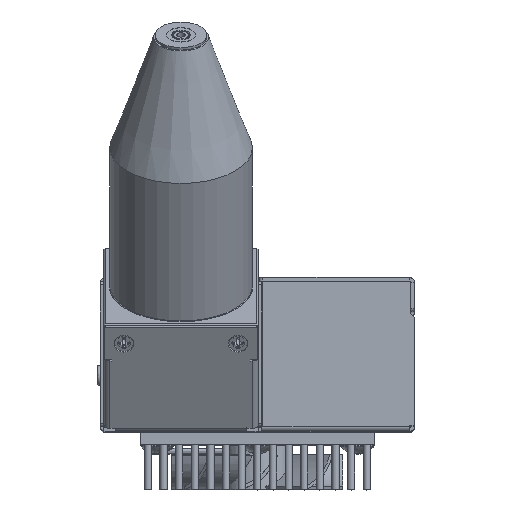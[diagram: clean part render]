
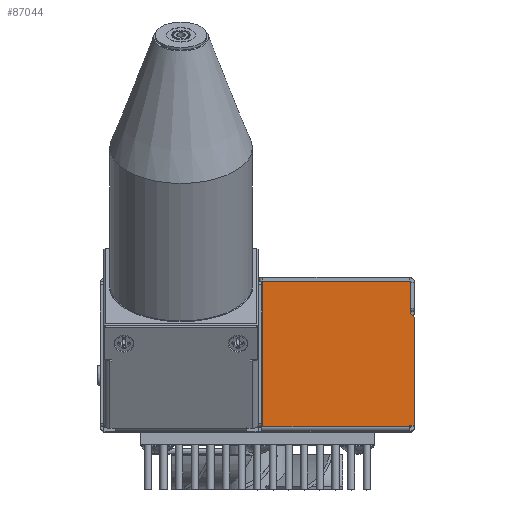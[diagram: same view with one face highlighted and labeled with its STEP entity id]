
A CAD part, top view. The second image highlights one B-rep face of the part: STEP entity #87044.
In plain terms, the highlighted planar face has unit normal (0, 0, 1).
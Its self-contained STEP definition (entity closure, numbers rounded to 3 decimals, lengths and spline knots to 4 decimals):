
#876 = DIRECTION ( 'NONE',  ( -1., 0., 0. ) ) ;
#2855 = CARTESIAN_POINT ( 'NONE',  ( 0.7165, -0.6335, 0.0512 ) ) ;
#2986 = ORIENTED_EDGE ( 'NONE', *, *, #32356, .F. ) ;
#6387 = CARTESIAN_POINT ( 'NONE',  ( 2.002, -0.6181, 0.0512 ) ) ;
#6999 = LINE ( 'NONE', #70914, #58240 ) ;
#7697 = VERTEX_POINT ( 'NONE', #9991 ) ;
#8213 = AXIS2_PLACEMENT_3D ( 'NONE', #18277, #43499, #76243 ) ;
#9991 = CARTESIAN_POINT ( 'NONE',  ( 2.0075, 0.3696, 0.0512 ) ) ;
#13378 = ORIENTED_EDGE ( 'NONE', *, *, #48093, .T. ) ;
#15495 = DIRECTION ( 'NONE',  ( -1., 0., 0. ) ) ;
#18277 = CARTESIAN_POINT ( 'NONE',  ( 2.0175, 0.3696, 0.0512 ) ) ;
#19551 = VERTEX_POINT ( 'NONE', #83817 ) ;
#21482 = AXIS2_PLACEMENT_3D ( 'NONE', #42467, #34946, #41958 ) ;
#23447 = DIRECTION ( 'NONE',  ( 0., -1., 0. ) ) ;
#24989 = CARTESIAN_POINT ( 'NONE',  ( 2.0104, 0.3626, 0.0512 ) ) ;
#25040 = LINE ( 'NONE', #99055, #57982 ) ;
#28949 = EDGE_CURVE ( 'NONE', #100581, #79096, #82358, .T. ) ;
#30497 = CIRCLE ( 'NONE', #8213, 0.01 ) ;
#32356 = EDGE_CURVE ( 'NONE', #100581, #92872, #90789, .T. ) ;
#33604 = DIRECTION ( 'NONE',  ( 0., -1., 0. ) ) ;
#34643 = EDGE_CURVE ( 'NONE', #92298, #19551, #89754, .T. ) ;
#34946 = DIRECTION ( 'NONE',  ( 0., 0., -1. ) ) ;
#36074 = ORIENTED_EDGE ( 'NONE', *, *, #66156, .T. ) ;
#38224 = CARTESIAN_POINT ( 'NONE',  ( 2.0025, 0.3125, 0.0512 ) ) ;
#38260 = PLANE ( 'NONE',  #21482 ) ;
#38371 = AXIS2_PLACEMENT_3D ( 'NONE', #38224, #94526, #15495 ) ;
#38812 = VECTOR ( 'NONE', #100485, 39.3701 ) ;
#39488 = LINE ( 'NONE', #63673, #44929 ) ;
#40925 = VECTOR ( 'NONE', #49640, 39.3701 ) ;
#41660 = LINE ( 'NONE', #74404, #103080 ) ;
#41958 = DIRECTION ( 'NONE',  ( -1., 0., 0. ) ) ;
#41974 = EDGE_CURVE ( 'NONE', #7697, #95501, #30497, .T. ) ;
#42430 = ORIENTED_EDGE ( 'NONE', *, *, #92381, .F. ) ;
#42467 = CARTESIAN_POINT ( 'NONE',  ( 2.0435, 0.6435, 0.0512 ) ) ;
#43499 = DIRECTION ( 'NONE',  ( 0., 0., 1. ) ) ;
#44929 = VECTOR ( 'NONE', #47565, 39.3701 ) ;
#46641 = CARTESIAN_POINT ( 'NONE',  ( 2.0432, -0.6181, 0.0512 ) ) ;
#47565 = DIRECTION ( 'NONE',  ( 0.707, -0.707, 0. ) ) ;
#48093 = EDGE_CURVE ( 'NONE', #104760, #84380, #41660, .T. ) ;
#49640 = DIRECTION ( 'NONE',  ( 1., 0., 0. ) ) ;
#50043 = CARTESIAN_POINT ( 'NONE',  ( 2.002, 0.6435, 0.0512 ) ) ;
#56851 = CARTESIAN_POINT ( 'NONE',  ( 0.7165, 0.6385, 0.0512 ) ) ;
#57451 = ORIENTED_EDGE ( 'NONE', *, *, #28949, .T. ) ;
#57652 = CARTESIAN_POINT ( 'NONE',  ( 2.0075, 0.6385, 0.0512 ) ) ;
#57982 = VECTOR ( 'NONE', #23447, 39.3701 ) ;
#58240 = VECTOR ( 'NONE', #103604, 39.3701 ) ;
#58269 = VECTOR ( 'NONE', #74196, 39.3701 ) ;
#61764 = ORIENTED_EDGE ( 'NONE', *, *, #82636, .F. ) ;
#63672 = ORIENTED_EDGE ( 'NONE', *, *, #85004, .F. ) ;
#63673 = CARTESIAN_POINT ( 'NONE',  ( 1.8865, 0.4865, 0.0512 ) ) ;
#64110 = VECTOR ( 'NONE', #33604, 39.3701 ) ;
#66156 = EDGE_CURVE ( 'NONE', #90425, #92872, #6999, .T. ) ;
#68745 = CARTESIAN_POINT ( 'NONE',  ( 2.002, -0.6335, 0.0512 ) ) ;
#68869 = LINE ( 'NONE', #2855, #38812 ) ;
#70914 = CARTESIAN_POINT ( 'NONE',  ( 2.002, -0.6335, 0.0512 ) ) ;
#73780 = CARTESIAN_POINT ( 'NONE',  ( 2.0435, -0.6181, 0.0512 ) ) ;
#73866 = CARTESIAN_POINT ( 'NONE',  ( 0.7165, -0.6335, 0.0512 ) ) ;
#74196 = DIRECTION ( 'NONE',  ( 0., -1., 0. ) ) ;
#74404 = CARTESIAN_POINT ( 'NONE',  ( 2.0435, 0.6385, 0.0512 ) ) ;
#74414 = CARTESIAN_POINT ( 'NONE',  ( 2.0432, 0.6435, 0.0512 ) ) ;
#76243 = DIRECTION ( 'NONE',  ( -1., 0., 0. ) ) ;
#76654 = EDGE_LOOP ( 'NONE', ( #42430, #13378, #95054, #36074, #2986, #57451, #63672, #104516, #61764, #101023 ) ) ;
#79047 = FACE_OUTER_BOUND ( 'NONE', #76654, .T. ) ;
#79096 = VERTEX_POINT ( 'NONE', #46641 ) ;
#80879 = CARTESIAN_POINT ( 'NONE',  ( 2.0315, 0.3415, 0.0512 ) ) ;
#82358 = LINE ( 'NONE', #73780, #40925 ) ;
#82636 = EDGE_CURVE ( 'NONE', #95501, #92298, #39488, .T. ) ;
#83817 = CARTESIAN_POINT ( 'NONE',  ( 2.0432, 0.3173, 0.0512 ) ) ;
#84380 = VERTEX_POINT ( 'NONE', #56851 ) ;
#85004 = EDGE_CURVE ( 'NONE', #19551, #79096, #92056, .T. ) ;
#87044 = ADVANCED_FACE ( 'NONE', ( #79047 ), #38260, .F. ) ;
#88346 = EDGE_CURVE ( 'NONE', #90425, #84380, #68869, .T. ) ;
#89754 = CIRCLE ( 'NONE', #38371, 0.041 ) ;
#90425 = VERTEX_POINT ( 'NONE', #73866 ) ;
#90789 = LINE ( 'NONE', #50043, #58269 ) ;
#92056 = LINE ( 'NONE', #74414, #64110 ) ;
#92298 = VERTEX_POINT ( 'NONE', #80879 ) ;
#92381 = EDGE_CURVE ( 'NONE', #104760, #7697, #25040, .T. ) ;
#92872 = VERTEX_POINT ( 'NONE', #68745 ) ;
#94526 = DIRECTION ( 'NONE',  ( 0., 0., -1. ) ) ;
#95054 = ORIENTED_EDGE ( 'NONE', *, *, #88346, .F. ) ;
#95501 = VERTEX_POINT ( 'NONE', #24989 ) ;
#99055 = CARTESIAN_POINT ( 'NONE',  ( 2.0075, 0.6435, 0.0512 ) ) ;
#100485 = DIRECTION ( 'NONE',  ( 0., 1., 0. ) ) ;
#100581 = VERTEX_POINT ( 'NONE', #6387 ) ;
#101023 = ORIENTED_EDGE ( 'NONE', *, *, #41974, .F. ) ;
#103080 = VECTOR ( 'NONE', #876, 39.3701 ) ;
#103604 = DIRECTION ( 'NONE',  ( 1., 0., 0. ) ) ;
#104516 = ORIENTED_EDGE ( 'NONE', *, *, #34643, .F. ) ;
#104760 = VERTEX_POINT ( 'NONE', #57652 ) ;
